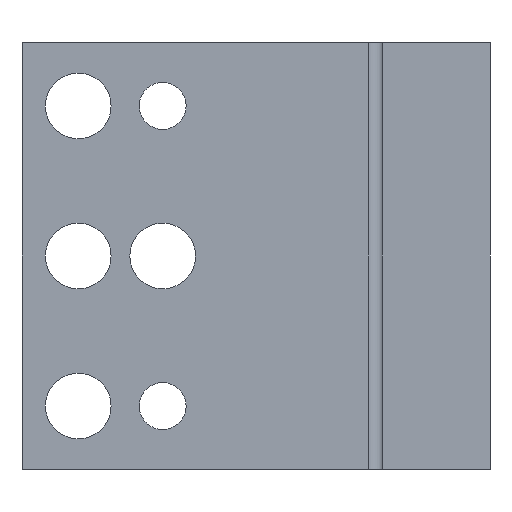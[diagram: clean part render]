
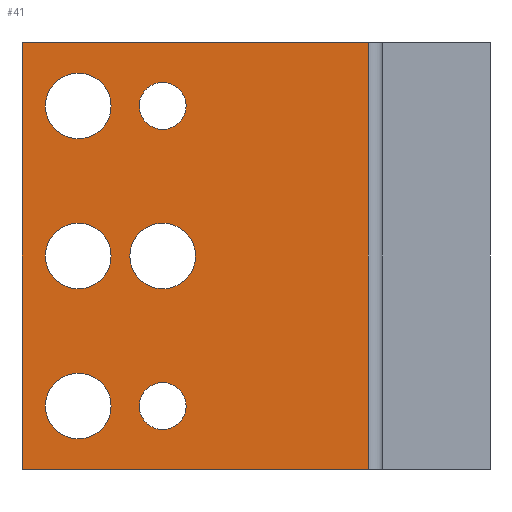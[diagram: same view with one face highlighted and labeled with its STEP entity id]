
A CAD part, left-side view. The second image highlights one B-rep face of the part: STEP entity #41.
In plain terms, the highlighted planar face has unit normal (-1, 0, 0).
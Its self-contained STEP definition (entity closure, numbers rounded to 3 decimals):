
#41 = ADVANCED_FACE ( 'NONE', ( #827, #825, #820, #824, #823, #822, #821 ), #158, .F. ) ;
#62 = ORIENTED_EDGE ( 'NONE', *, *, #611, .T. ) ;
#67 = ORIENTED_EDGE ( 'NONE', *, *, #736, .T. ) ;
#68 = ORIENTED_EDGE ( 'NONE', *, *, #600, .T. ) ;
#69 = ORIENTED_EDGE ( 'NONE', *, *, #607, .T. ) ;
#73 = ORIENTED_EDGE ( 'NONE', *, *, #610, .T. ) ;
#78 = ORIENTED_EDGE ( 'NONE', *, *, #639, .F. ) ;
#80 = ORIENTED_EDGE ( 'NONE', *, *, #724, .T. ) ;
#81 = ORIENTED_EDGE ( 'NONE', *, *, #717, .T. ) ;
#84 = ORIENTED_EDGE ( 'NONE', *, *, #625, .T. ) ;
#86 = ORIENTED_EDGE ( 'NONE', *, *, #1077, .T. ) ;
#87 = ORIENTED_EDGE ( 'NONE', *, *, #635, .T. ) ;
#90 = ORIENTED_EDGE ( 'NONE', *, *, #622, .T. ) ;
#93 = ORIENTED_EDGE ( 'NONE', *, *, #640, .F. ) ;
#94 = ORIENTED_EDGE ( 'NONE', *, *, #621, .T. ) ;
#95 = ORIENTED_EDGE ( 'NONE', *, *, #617, .T. ) ;
#97 = ORIENTED_EDGE ( 'NONE', *, *, #612, .T. ) ;
#104 = CARTESIAN_POINT ( 'NONE',  ( 0., -9., -3.5 ) ) ;
#107 = CARTESIAN_POINT ( 'NONE',  ( 0., -9., -13.5 ) ) ;
#108 = CARTESIAN_POINT ( 'NONE',  ( 0., -9., 13.5 ) ) ;
#113 = CARTESIAN_POINT ( 'NONE',  ( 0., -9., 16. ) ) ;
#117 = CARTESIAN_POINT ( 'NONE',  ( 0., 0., 16. ) ) ;
#120 = VERTEX_POINT ( 'NONE', #104 ) ;
#124 = CARTESIAN_POINT ( 'NONE',  ( 0., -9., 16. ) ) ;
#128 = DIRECTION ( 'NONE',  ( 1., 0., 0. ) ) ;
#131 = DIRECTION ( 'NONE',  ( 1., 0., 0. ) ) ;
#132 = CARTESIAN_POINT ( 'NONE',  ( 0., -9., 3.5 ) ) ;
#134 = CARTESIAN_POINT ( 'NONE',  ( 0., -30.9, 22.75 ) ) ;
#136 = CARTESIAN_POINT ( 'NONE',  ( 0., 6., 22.75 ) ) ;
#142 = CARTESIAN_POINT ( 'NONE',  ( 0., -9., 0. ) ) ;
#144 = DIRECTION ( 'NONE',  ( 1., 0., 0. ) ) ;
#148 = CARTESIAN_POINT ( 'NONE',  ( 0., 0., 19.5 ) ) ;
#149 = DIRECTION ( 'NONE',  ( 1., 0., 0. ) ) ;
#158 = PLANE ( 'NONE',  #904 ) ;
#168 = CARTESIAN_POINT ( 'NONE',  ( 0., 0., -3.5 ) ) ;
#184 = DIRECTION ( 'NONE',  ( 0., 0., -1. ) ) ;
#189 = CARTESIAN_POINT ( 'NONE',  ( 0., 6., -22.75 ) ) ;
#195 = CARTESIAN_POINT ( 'NONE',  ( 0., 0., -19.5 ) ) ;
#198 = CARTESIAN_POINT ( 'NONE',  ( 0., 6., -22.75 ) ) ;
#200 = DIRECTION ( 'NONE',  ( 1., 0., 0. ) ) ;
#201 = DIRECTION ( 'NONE',  ( 1., 0., 0. ) ) ;
#204 = CARTESIAN_POINT ( 'NONE',  ( 0., -9., -18.5 ) ) ;
#209 = CARTESIAN_POINT ( 'NONE',  ( 0., -9., 18.5 ) ) ;
#213 = VERTEX_POINT ( 'NONE', #132 ) ;
#214 = DIRECTION ( 'NONE',  ( 0., 0., -1. ) ) ;
#219 = DIRECTION ( 'NONE',  ( 0., 0., -1. ) ) ;
#220 = VERTEX_POINT ( 'NONE', #195 ) ;
#222 = VERTEX_POINT ( 'NONE', #423 ) ;
#223 = VERTEX_POINT ( 'NONE', #107 ) ;
#224 = DIRECTION ( 'NONE',  ( 0., 0., -1. ) ) ;
#225 = DIRECTION ( 'NONE',  ( 1., 0., 0. ) ) ;
#227 = CARTESIAN_POINT ( 'NONE',  ( 0., 6., 22.75 ) ) ;
#241 = VERTEX_POINT ( 'NONE', #399 ) ;
#246 = VERTEX_POINT ( 'NONE', #204 ) ;
#249 = VERTEX_POINT ( 'NONE', #148 ) ;
#269 = VERTEX_POINT ( 'NONE', #198 ) ;
#314 = VERTEX_POINT ( 'NONE', #209 ) ;
#315 = VERTEX_POINT ( 'NONE', #108 ) ;
#318 = VERTEX_POINT ( 'NONE', #134 ) ;
#319 = VERTEX_POINT ( 'NONE', #408 ) ;
#330 = VERTEX_POINT ( 'NONE', #168 ) ;
#334 = VERTEX_POINT ( 'NONE', #419 ) ;
#342 = VERTEX_POINT ( 'NONE', #375 ) ;
#375 = CARTESIAN_POINT ( 'NONE',  ( 0., 0., -12.5 ) ) ;
#378 = DIRECTION ( 'NONE',  ( 0., 0., -1. ) ) ;
#384 = DIRECTION ( 'NONE',  ( 1., 0., 0. ) ) ;
#386 = DIRECTION ( 'NONE',  ( 0., -1., 0. ) ) ;
#390 = DIRECTION ( 'NONE',  ( 0., 0., -1. ) ) ;
#399 = CARTESIAN_POINT ( 'NONE',  ( 0., 0., 3.5 ) ) ;
#404 = CARTESIAN_POINT ( 'NONE',  ( 0., 0., 0. ) ) ;
#408 = CARTESIAN_POINT ( 'NONE',  ( 0., -30.9, -22.75 ) ) ;
#413 = DIRECTION ( 'NONE',  ( 0., 0., -1. ) ) ;
#416 = DIRECTION ( 'NONE',  ( 0., 0., -1. ) ) ;
#418 = CARTESIAN_POINT ( 'NONE',  ( 0., -9., 0. ) ) ;
#419 = CARTESIAN_POINT ( 'NONE',  ( 0., 0., 12.5 ) ) ;
#423 = CARTESIAN_POINT ( 'NONE',  ( 0., 6., 22.75 ) ) ;
#425 = CARTESIAN_POINT ( 'NONE',  ( 0., 0., -16. ) ) ;
#426 = DIRECTION ( 'NONE',  ( 0., 0., -1. ) ) ;
#435 = DIRECTION ( 'NONE',  ( 0., 0., -1. ) ) ;
#436 = CARTESIAN_POINT ( 'NONE',  ( 0., 0., 16. ) ) ;
#437 = DIRECTION ( 'NONE',  ( 1., 0., 0. ) ) ;
#444 = DIRECTION ( 'NONE',  ( 0., 0., -1. ) ) ;
#445 = DIRECTION ( 'NONE',  ( 0., 0., -1. ) ) ;
#448 = CARTESIAN_POINT ( 'NONE',  ( 0., 0., 0. ) ) ;
#456 = CARTESIAN_POINT ( 'NONE',  ( 0., 6., 22.75 ) ) ;
#468 = CARTESIAN_POINT ( 'NONE',  ( 0., -30.9, 22.75 ) ) ;
#472 = DIRECTION ( 'NONE',  ( 0., -1., 0. ) ) ;
#486 = DIRECTION ( 'NONE',  ( 0., 0., -1. ) ) ;
#495 = DIRECTION ( 'NONE',  ( 1., 0., 0. ) ) ;
#503 = DIRECTION ( 'NONE',  ( 0., 0., -1. ) ) ;
#505 = DIRECTION ( 'NONE',  ( 1., 0., 0. ) ) ;
#508 = DIRECTION ( 'NONE',  ( 0., 0., -1. ) ) ;
#510 = CARTESIAN_POINT ( 'NONE',  ( 0., 0., -16. ) ) ;
#522 = DIRECTION ( 'NONE',  ( 1., 0., 0. ) ) ;
#541 = DIRECTION ( 'NONE',  ( 1., 0., 0. ) ) ;
#542 = CARTESIAN_POINT ( 'NONE',  ( 0., -9., -16. ) ) ;
#551 = CARTESIAN_POINT ( 'NONE',  ( 0., -9., -16. ) ) ;
#559 = AXIS2_PLACEMENT_3D ( 'NONE', #418, #144, #184 ) ;
#560 = AXIS2_PLACEMENT_3D ( 'NONE', #117, #149, #378 ) ;
#561 = AXIS2_PLACEMENT_3D ( 'NONE', #142, #384, #416 ) ;
#563 = AXIS2_PLACEMENT_3D ( 'NONE', #113, #131, #390 ) ;
#564 = AXIS2_PLACEMENT_3D ( 'NONE', #404, #201, #224 ) ;
#565 = AXIS2_PLACEMENT_3D ( 'NONE', #124, #128, #214 ) ;
#566 = AXIS2_PLACEMENT_3D ( 'NONE', #425, #200, #413 ) ;
#568 = AXIS2_PLACEMENT_3D ( 'NONE', #551, #495, #486 ) ;
#573 = AXIS2_PLACEMENT_3D ( 'NONE', #542, #541, #503 ) ;
#578 = AXIS2_PLACEMENT_3D ( 'NONE', #436, #437, #435 ) ;
#580 = AXIS2_PLACEMENT_3D ( 'NONE', #510, #505, #508 ) ;
#581 = AXIS2_PLACEMENT_3D ( 'NONE', #448, #522, #445 ) ;
#600 = EDGE_CURVE ( 'NONE', #334, #249, #855, .T. ) ;
#607 = EDGE_CURVE ( 'NONE', #222, #269, #857, .T. ) ;
#610 = EDGE_CURVE ( 'NONE', #120, #213, #869, .T. ) ;
#611 = EDGE_CURVE ( 'NONE', #314, #315, #786, .T. ) ;
#612 = EDGE_CURVE ( 'NONE', #213, #120, #761, .T. ) ;
#617 = EDGE_CURVE ( 'NONE', #220, #342, #751, .T. ) ;
#621 = EDGE_CURVE ( 'NONE', #330, #241, #865, .T. ) ;
#622 = EDGE_CURVE ( 'NONE', #315, #314, #775, .T. ) ;
#625 = EDGE_CURVE ( 'NONE', #269, #319, #882, .T. ) ;
#635 = EDGE_CURVE ( 'NONE', #246, #223, #808, .T. ) ;
#639 = EDGE_CURVE ( 'NONE', #222, #318, #645, .T. ) ;
#640 = EDGE_CURVE ( 'NONE', #318, #319, #654, .T. ) ;
#645 = LINE ( 'NONE', #456, #646 ) ;
#646 = VECTOR ( 'NONE', #472, 1000. ) ;
#654 = LINE ( 'NONE', #468, #655 ) ;
#655 = VECTOR ( 'NONE', #444, 1000. ) ;
#670 = CIRCLE ( 'NONE', #573, 2.5 ) ;
#680 = CIRCLE ( 'NONE', #578, 3.5 ) ;
#695 = CIRCLE ( 'NONE', #580, 3.5 ) ;
#702 = CIRCLE ( 'NONE', #581, 3.5 ) ;
#717 = EDGE_CURVE ( 'NONE', #223, #246, #670, .T. ) ;
#724 = EDGE_CURVE ( 'NONE', #249, #334, #680, .T. ) ;
#736 = EDGE_CURVE ( 'NONE', #241, #330, #702, .T. ) ;
#751 = CIRCLE ( 'NONE', #566, 3.5 ) ;
#761 = CIRCLE ( 'NONE', #561, 3.5 ) ;
#775 = CIRCLE ( 'NONE', #565, 2.5 ) ;
#786 = CIRCLE ( 'NONE', #563, 2.5 ) ;
#808 = CIRCLE ( 'NONE', #568, 2.5 ) ;
#820 = FACE_BOUND ( 'NONE', #1046, .T. ) ;
#821 = FACE_OUTER_BOUND ( 'NONE', #983, .T. ) ;
#822 = FACE_BOUND ( 'NONE', #1066, .T. ) ;
#823 = FACE_BOUND ( 'NONE', #987, .T. ) ;
#824 = FACE_BOUND ( 'NONE', #1063, .T. ) ;
#825 = FACE_BOUND ( 'NONE', #1059, .T. ) ;
#827 = FACE_BOUND ( 'NONE', #1060, .T. ) ;
#854 = VECTOR ( 'NONE', #386, 1000. ) ;
#855 = CIRCLE ( 'NONE', #560, 3.5 ) ;
#857 = LINE ( 'NONE', #136, #860 ) ;
#860 = VECTOR ( 'NONE', #426, 1000. ) ;
#865 = CIRCLE ( 'NONE', #564, 3.5 ) ;
#869 = CIRCLE ( 'NONE', #559, 3.5 ) ;
#882 = LINE ( 'NONE', #189, #854 ) ;
#904 = AXIS2_PLACEMENT_3D ( 'NONE', #227, #225, #219 ) ;
#983 = EDGE_LOOP ( 'NONE', ( #84, #93, #78, #69 ) ) ;
#987 = EDGE_LOOP ( 'NONE', ( #73, #97 ) ) ;
#1046 = EDGE_LOOP ( 'NONE', ( #68, #80 ) ) ;
#1059 = EDGE_LOOP ( 'NONE', ( #94, #67 ) ) ;
#1060 = EDGE_LOOP ( 'NONE', ( #95, #86 ) ) ;
#1063 = EDGE_LOOP ( 'NONE', ( #87, #81 ) ) ;
#1066 = EDGE_LOOP ( 'NONE', ( #90, #62 ) ) ;
#1077 = EDGE_CURVE ( 'NONE', #342, #220, #695, .T. ) ;
